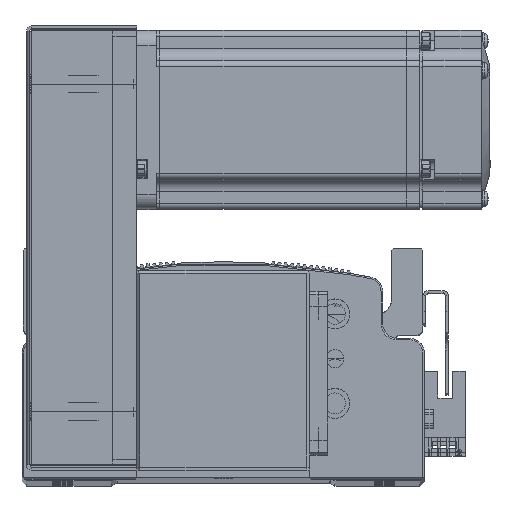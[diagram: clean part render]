
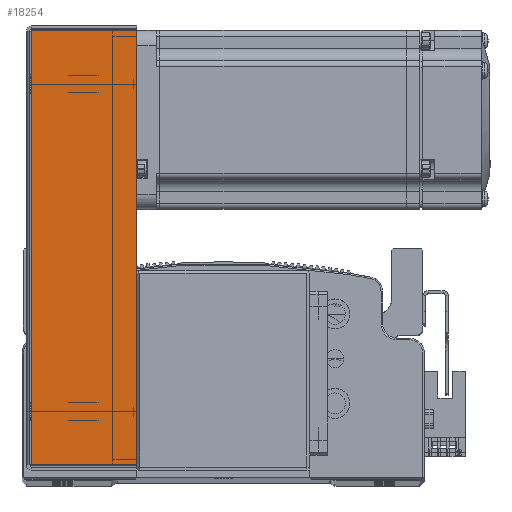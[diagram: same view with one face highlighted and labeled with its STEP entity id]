
A CAD part, top view. The second image highlights one B-rep face of the part: STEP entity #18254.
In plain terms, the highlighted planar face has unit normal (0, 0, 1).
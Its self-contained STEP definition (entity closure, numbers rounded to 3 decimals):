
#18254 = ADVANCED_FACE ( 'NONE', ( #52016 ), #46109, .F. ) ;
#39161 = CARTESIAN_POINT ( 'NONE',  ( -72.793, 0.737, 34.5 ) ) ;
#39177 = CARTESIAN_POINT ( 'NONE',  ( 72.793, 0.737, 34.5 ) ) ;
#39229 = CARTESIAN_POINT ( 'NONE',  ( 72.793, 36., 34.5 ) ) ;
#39287 = CARTESIAN_POINT ( 'NONE',  ( -72.793, 36., 34.5 ) ) ;
#43549 = EDGE_LOOP ( 'NONE', ( #83437, #83446, #83425, #83341 ) ) ;
#44282 = DIRECTION ( 'NONE',  ( -1., 0., 0. ) ) ;
#44290 = CARTESIAN_POINT ( 'NONE',  ( 0., 36., 34.5 ) ) ;
#44372 = CARTESIAN_POINT ( 'NONE',  ( -74.5, 0.737, 34.5 ) ) ;
#44382 = DIRECTION ( 'NONE',  ( -1., 0., 0. ) ) ;
#44542 = DIRECTION ( 'NONE',  ( 0., 1., 0. ) ) ;
#44559 = CARTESIAN_POINT ( 'NONE',  ( 72.793, 0., 34.5 ) ) ;
#44584 = DIRECTION ( 'NONE',  ( 0., 1., 0. ) ) ;
#44624 = CARTESIAN_POINT ( 'NONE',  ( -72.793, 0., 34.5 ) ) ;
#46100 = DIRECTION ( 'NONE',  ( -1., 0., 0. ) ) ;
#46109 = PLANE ( 'NONE',  #58124 ) ;
#46119 = CARTESIAN_POINT ( 'NONE',  ( 0., 0., 34.5 ) ) ;
#46129 = DIRECTION ( 'NONE',  ( 0., 0., -1. ) ) ;
#50626 = LINE ( 'NONE', #44290, #50657 ) ;
#50657 = VECTOR ( 'NONE', #44282, 1000. ) ;
#50686 = VECTOR ( 'NONE', #44382, 1000. ) ;
#50699 = LINE ( 'NONE', #44372, #50686 ) ;
#50772 = LINE ( 'NONE', #44559, #50788 ) ;
#50788 = VECTOR ( 'NONE', #44542, 1000. ) ;
#50800 = VECTOR ( 'NONE', #44584, 1000. ) ;
#50837 = LINE ( 'NONE', #44624, #50800 ) ;
#52016 = FACE_OUTER_BOUND ( 'NONE', #43549, .T. ) ;
#58124 = AXIS2_PLACEMENT_3D ( 'NONE', #46119, #46129, #46100 ) ;
#75595 = VERTEX_POINT ( 'NONE', #39161 ) ;
#75596 = VERTEX_POINT ( 'NONE', #39177 ) ;
#75629 = VERTEX_POINT ( 'NONE', #39229 ) ;
#75703 = VERTEX_POINT ( 'NONE', #39287 ) ;
#79867 = EDGE_CURVE ( 'NONE', #75629, #75703, #50626, .T. ) ;
#79900 = EDGE_CURVE ( 'NONE', #75596, #75595, #50699, .T. ) ;
#79956 = EDGE_CURVE ( 'NONE', #75596, #75629, #50772, .T. ) ;
#79976 = EDGE_CURVE ( 'NONE', #75595, #75703, #50837, .T. ) ;
#83341 = ORIENTED_EDGE ( 'NONE', *, *, #79976, .F. ) ;
#83425 = ORIENTED_EDGE ( 'NONE', *, *, #79867, .T. ) ;
#83437 = ORIENTED_EDGE ( 'NONE', *, *, #79900, .F. ) ;
#83446 = ORIENTED_EDGE ( 'NONE', *, *, #79956, .T. ) ;
